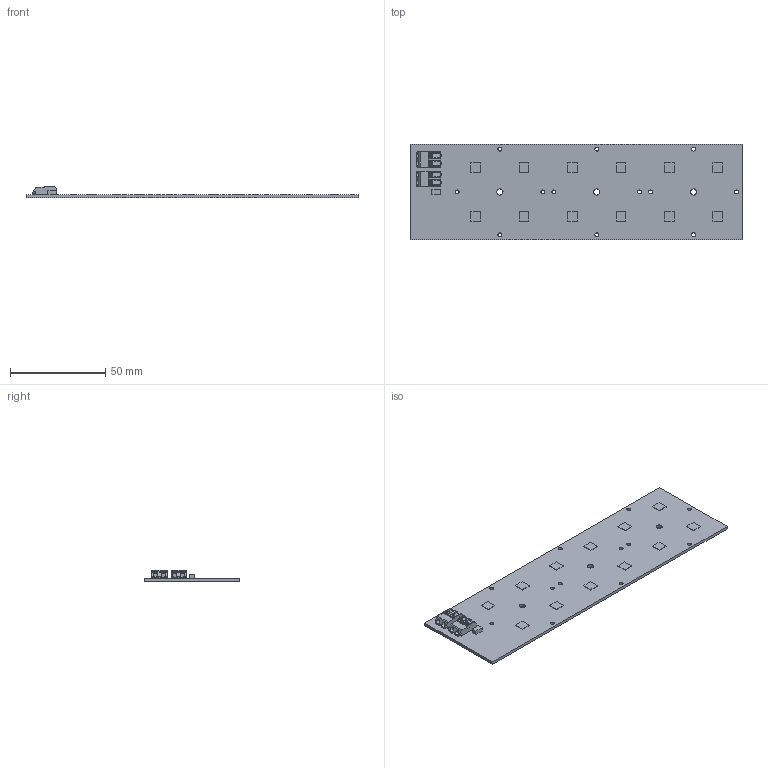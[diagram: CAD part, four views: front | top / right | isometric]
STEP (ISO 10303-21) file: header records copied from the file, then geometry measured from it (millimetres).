
FILE_DESCRIPTION(('Open CASCADE Model'),'2;1');
FILE_NAME('Open CASCADE Shape Model','2025-11-18T13:21:39',('Author'),( 'Open CASCADE'),'Open CASCADE STEP processor 7.5','Open CASCADE 7.5' ,'Unknown');
FILE_SCHEMA(('AUTOMOTIVE_DESIGN { 1 0 10303 214 1 1 1 1 }'));
Length unit declared in the file: millimetre
Products named in the file (25): PCB; Board; Open CASCADE STEP translator 7.5 2.1.1; TVS; 6591467776; Extruded; LED1; 7274493296; LED12; LED8; LED10; 7274493776; LED4; LED11; LED5; LED7; LED6; LED2; LED3; LED9; J2; 2060-452_998-404; J1
Assembly tree (35 placements, depth 4):
  PCB
    Board
      Open CASCADE STEP translator 7.5 2.1.1
    TVS
      6591467776
        Extruded
    LED1
      7274493296
        Extruded
    LED12
      7274493296
        Extruded
    LED8
      7274493296
        Extruded
    LED10
      7274493776
        Extruded
    LED4
      7274493776
        Extruded
    LED11
      7274493296
        Extruded
    LED5
      7274493296
        Extruded
    LED7
      7274493296
        Extruded
    LED6
      7274493296
        Extruded
    LED2
      7274493296
        Extruded
    LED3
      7274493776
        Extruded
    LED9
      7274493776
        Extruded
    J2
      2060-452_998-404
    J1
      2060-452_998-404
Bounding box: 174.2 x 50 x 5.95 mm (x, y, z)
Volume: 14528.8 mm3; surface area: 20080.2 mm2
Topology: 16 solids, 16 shells, 477 faces, 1303 edges, 866 vertices
Faces by surface type: plane 354, cylinder 119, sphere 4
Full cylindrical faces by diameter (mm): 2.1 x12, 2.25 x4, 3.2 x3
Entity records: 9143 total; most frequent: CARTESIAN_POINT 1391, DIRECTION 1278, ORIENTED_EDGE 1248, EDGE_CURVE 624, LINE 456, VECTOR 456, VERTEX_POINT 416, AXIS2_PLACEMENT_3D 411
